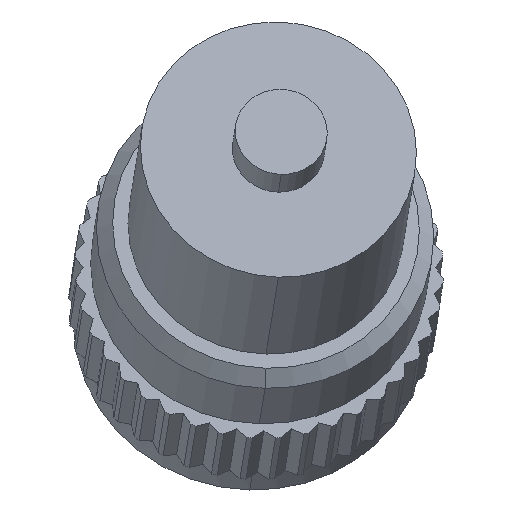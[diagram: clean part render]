
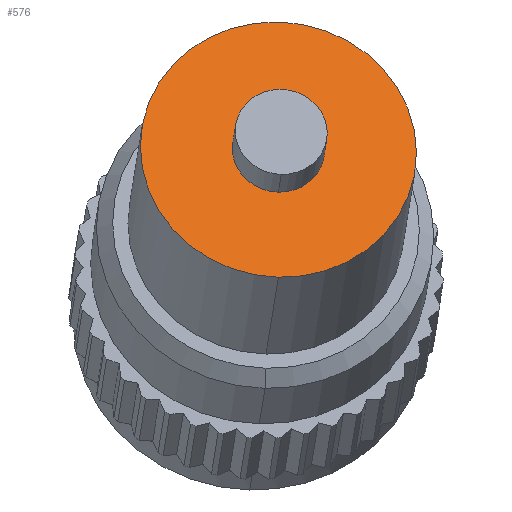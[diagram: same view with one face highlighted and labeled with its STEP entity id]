
A CAD part, top view. The second image highlights one B-rep face of the part: STEP entity #576.
In plain terms, the highlighted planar face has unit normal (0.062, 0.383, 0.922).
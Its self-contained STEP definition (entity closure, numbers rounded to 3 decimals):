
#176 = AXIS2_PLACEMENT_3D ( 'NONE', #3989, #2572, #4177 ) ;
#331 = EDGE_LOOP ( 'NONE', ( #2740, #4437 ) ) ;
#426 = AXIS2_PLACEMENT_3D ( 'NONE', #1123, #2362, #2330 ) ;
#479 = EDGE_CURVE ( 'NONE', #696, #3526, #4257, .T. ) ;
#500 = DIRECTION ( 'NONE',  ( -0.062, -0.383, -0.922 ) ) ;
#576 = ADVANCED_FACE ( 'NONE', ( #1669, #911 ), #4896, .F. ) ;
#696 = VERTEX_POINT ( 'NONE', #1292 ) ;
#911 = FACE_OUTER_BOUND ( 'NONE', #331, .T. ) ;
#1093 = CARTESIAN_POINT ( 'NONE',  ( -48.353, 42.386, 119.804 ) ) ;
#1117 = CARTESIAN_POINT ( 'NONE',  ( -48.353, 50.697, 116.35 ) ) ;
#1123 = CARTESIAN_POINT ( 'NONE',  ( -48.353, 46.542, 118.077 ) ) ;
#1130 = EDGE_LOOP ( 'NONE', ( #2815, #1587 ) ) ;
#1270 = AXIS2_PLACEMENT_3D ( 'NONE', #2760, #2797, #3977 ) ;
#1277 = DIRECTION ( 'NONE',  ( 0., 0.923, -0.384 ) ) ;
#1292 = CARTESIAN_POINT ( 'NONE',  ( -48.353, 47.927, 117.501 ) ) ;
#1353 = CARTESIAN_POINT ( 'NONE',  ( -48.353, 46.542, 118.077 ) ) ;
#1461 = AXIS2_PLACEMENT_3D ( 'NONE', #4930, #500, #1277 ) ;
#1587 = ORIENTED_EDGE ( 'NONE', *, *, #4381, .F. ) ;
#1669 = FACE_BOUND ( 'NONE', #1130, .T. ) ;
#1897 = VERTEX_POINT ( 'NONE', #1117 ) ;
#2330 = DIRECTION ( 'NONE',  ( 0., 0.923, -0.384 ) ) ;
#2362 = DIRECTION ( 'NONE',  ( 0.062, 0.383, 0.922 ) ) ;
#2572 = DIRECTION ( 'NONE',  ( -0.062, -0.383, -0.922 ) ) ;
#2684 = EDGE_CURVE ( 'NONE', #1897, #4897, #4259, .T. ) ;
#2714 = CIRCLE ( 'NONE', #1270, 1.5 ) ;
#2740 = ORIENTED_EDGE ( 'NONE', *, *, #2684, .F. ) ;
#2760 = CARTESIAN_POINT ( 'NONE',  ( -48.353, 46.542, 118.077 ) ) ;
#2797 = DIRECTION ( 'NONE',  ( 0.062, 0.383, 0.922 ) ) ;
#2815 = ORIENTED_EDGE ( 'NONE', *, *, #479, .F. ) ;
#3184 = CIRCLE ( 'NONE', #176, 4.5 ) ;
#3526 = VERTEX_POINT ( 'NONE', #3828 ) ;
#3690 = AXIS2_PLACEMENT_3D ( 'NONE', #1353, #4174, #4637 ) ;
#3828 = CARTESIAN_POINT ( 'NONE',  ( -48.353, 45.156, 118.652 ) ) ;
#3977 = DIRECTION ( 'NONE',  ( 0., 0.923, -0.384 ) ) ;
#3989 = CARTESIAN_POINT ( 'NONE',  ( -48.353, 46.542, 118.077 ) ) ;
#4174 = DIRECTION ( 'NONE',  ( -0.062, -0.383, -0.922 ) ) ;
#4177 = DIRECTION ( 'NONE',  ( 0., 0.923, -0.384 ) ) ;
#4257 = CIRCLE ( 'NONE', #426, 1.5 ) ;
#4259 = CIRCLE ( 'NONE', #3690, 4.5 ) ;
#4381 = EDGE_CURVE ( 'NONE', #3526, #696, #2714, .T. ) ;
#4437 = ORIENTED_EDGE ( 'NONE', *, *, #4986, .F. ) ;
#4637 = DIRECTION ( 'NONE',  ( 0., 0.923, -0.384 ) ) ;
#4896 = PLANE ( 'NONE',  #1461 ) ;
#4897 = VERTEX_POINT ( 'NONE', #1093 ) ;
#4930 = CARTESIAN_POINT ( 'NONE',  ( -48.391, 47.927, 117.503 ) ) ;
#4986 = EDGE_CURVE ( 'NONE', #4897, #1897, #3184, .T. ) ;
